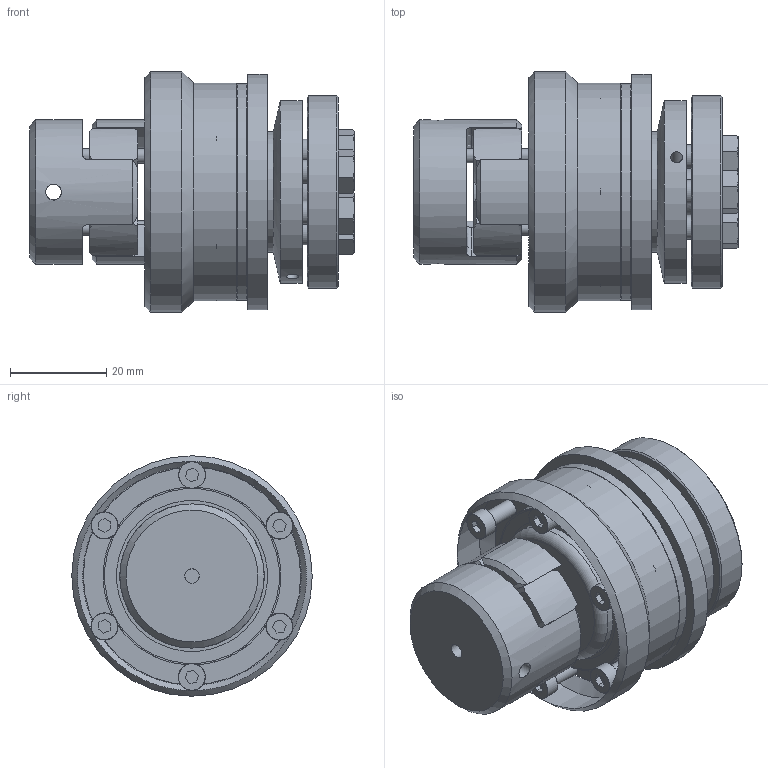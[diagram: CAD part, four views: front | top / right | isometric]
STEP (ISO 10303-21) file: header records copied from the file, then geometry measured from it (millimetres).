
FILE_DESCRIPTION( ( 'Unknown' ), '1' );
FILE_NAME( 'C:/Users/skarpstein/Desktop/Korrigierte 3D Modelle/KBK-E-PA/KBK EPA-14.stp', 'Unknown', ( 'Unknown' ), ( 'Unknown' ), 'PSStep 16.0.42', 'Unknown', ' ' );
FILE_SCHEMA( ( 'AUTOMOTIVE_DESIGN { 1 0 10303 214 1 1 1 1 }' ) );
Length unit declared in the file: millimetre
Products named in the file (30): ball_bearing_-_61904_0_02; Zylinderschraube DIN 912; ball_bearing_-_61904_0_03; ball_bearing_-_61904_0_01; Elastomerflansch EK 10; Stellring 10; din_en_24017_m5x12; Zahnkranz_14_Standard; Druckring 10; a_20; Flansch L-LL10; Druckring L-A-10; Assem3_1; L-A-10 Grundteil; Assem2_3; Assem1; KBE 1 - 14_Nabe
Assembly tree (39 placements, depth 4):
  Assem1
    KBE 1 - 14_Nabe
    Stellring 10
      Stellring 10
    Druckring 10
      Druckring 10
    a_20
      a_20
    Flansch L-LL10
      Flansch L-LL10
    Elastomerflansch EK 10
      Elastomerflansch EK 10
    Zahnkranz_14_Standard
      Zahnkranz_14_Standard
    L-A-10 Grundteil
      L-A-10 Grundteil
    Druckring L-A-10
      Druckring L-A-10
    din_en_24017_m5x12  x6
      din_en_24017_m5x12
    Assem3_1
      ball_bearing_-_61904_0_01
        ball_bearing_-_61904_0_01
      ball_bearing_-_61904_0_02
        ball_bearing_-_61904_0_02
      ball_bearing_-_61904_0_03
        ball_bearing_-_61904_0_03
    Assem2_3  x6
      Zylinderschraube DIN 912
        Zylinderschraube DIN 912
Bounding box: 67.57 x 50 x 50 mm (x, y, z)
Volume: 68250.3 mm3; surface area: 43701.8 mm2
Topology: 24 solids, 24 shells, 464 faces, 1018 edges, 647 vertices
Faces by surface type: plane 205, cylinder 130, cone 109, torus 20
Full cylindrical faces by diameter (mm): 2 x2, 2.459 x8, 3 x12, 3.3 x1, 3.4 x6, 4.134 x6, 5 x6, 5.5 x12, 5.6 x6, 6 x1, 6.88 x6, 10 x3, 14 x1, 15 x1, 19 x1, 20 x3, 24 x2, 25 x1, 25.6 x2, 29 x1, 29.993 x1, 30 x2, 31.4 x2, 37 x3, 38 x1, 40 x2, 45 x1, 45.2 x1, 49 x1, 50 x1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
Entity records: 10940 total; most frequent: CARTESIAN_POINT 1886, DIRECTION 1452, ORIENTED_EDGE 1038, AXIS2_PLACEMENT_3D 673, EDGE_CURVE 519, EDGE_LOOP 470, VERTEX_POINT 387, FACE_OUTER_BOUND 374
